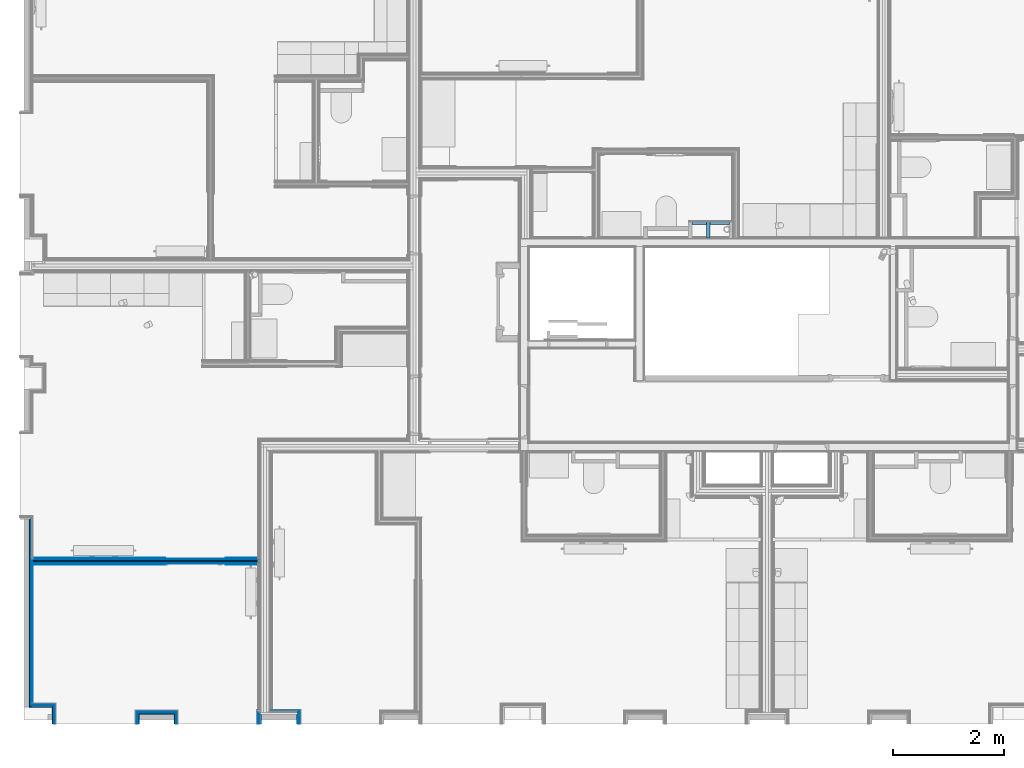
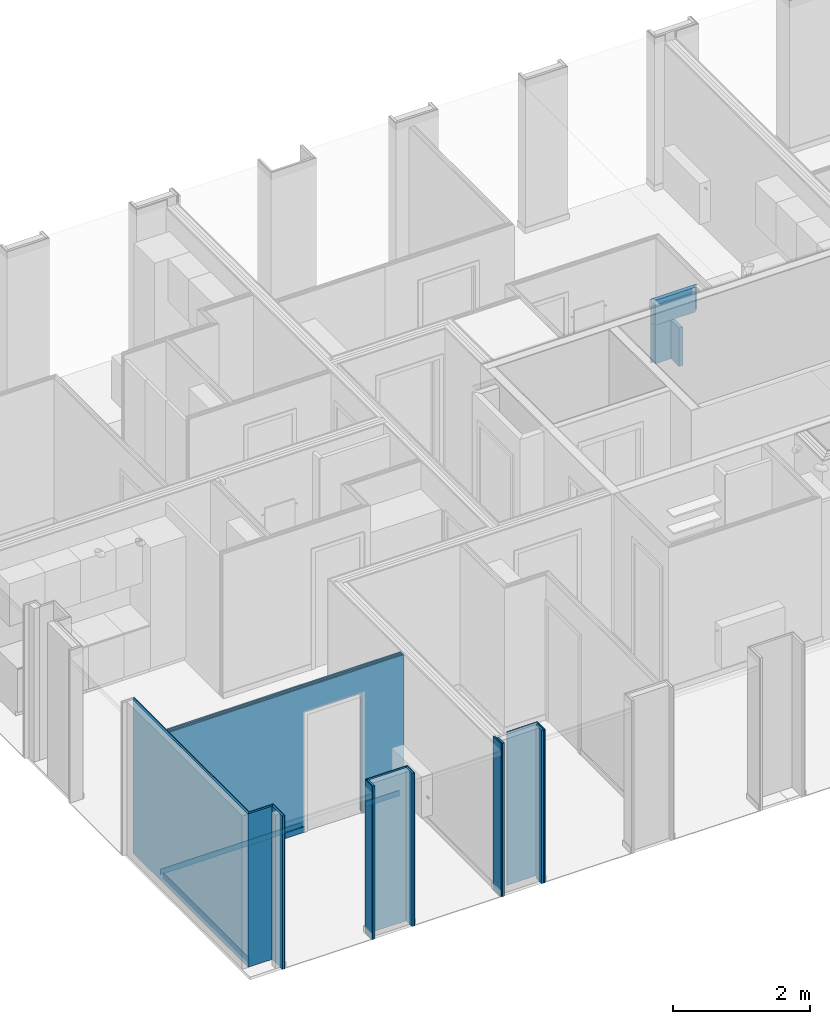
# One storey, part 7 of 85: 27 building element parts, 3 walls, 1 opening, 10 elements without a shape of their own.
"""IFC2X3 building model written with IfcOpenShell, lengths in metres."""

from ifc_helpers import new_model, entity, si_unit, converted_unit, derived_unit, money_unit, direction, frame, frame_2d, origin_with_axes, place, context, subcontext, project, spatial, polyline, rectangle, outline, extrude, material, layer, layer_set, layer_usage, type_object, element, aggregate, save


model = new_model("IFC2X3")

# Units and contexts
model_context = context("Model", 3, precision=1e-05, world=origin_with_axes(), true_north=direction((0.0, 1.0)))
body_context = subcontext(model_context, "Body", "Model", "MODEL_VIEW", scale=1.0)
ifc_project = project(units=[si_unit("LENGTHUNIT", "METRE"), si_unit("AREAUNIT", "SQUARE_METRE"), si_unit("VOLUMEUNIT", "CUBIC_METRE"), si_unit("ABSORBEDDOSEUNIT", "GRAY"), si_unit("AMOUNTOFSUBSTANCEUNIT", "MOLE"), si_unit("DOSEEQUIVALENTUNIT", "SIEVERT"), si_unit("ELECTRICCAPACITANCEUNIT", "FARAD"), si_unit("ELECTRICCHARGEUNIT", "COULOMB"), si_unit("ELECTRICCONDUCTANCEUNIT", "SIEMENS"), si_unit("ELECTRICCURRENTUNIT", "AMPERE"), si_unit("ELECTRICRESISTANCEUNIT", "OHM"), si_unit("ELECTRICVOLTAGEUNIT", "VOLT"), si_unit("ENERGYUNIT", "JOULE"), si_unit("FORCEUNIT", "NEWTON"), si_unit("FREQUENCYUNIT", "HERTZ"), si_unit("ILLUMINANCEUNIT", "LUX"), si_unit("INDUCTANCEUNIT", "HENRY"), si_unit("LUMINOUSFLUXUNIT", "LUMEN"), si_unit("LUMINOUSINTENSITYUNIT", "CANDELA"), si_unit("MAGNETICFLUXDENSITYUNIT", "TESLA"), si_unit("MAGNETICFLUXUNIT", "WEBER"), si_unit("MASSUNIT", "GRAM"), converted_unit("PLANEANGLEUNIT", "degree", entity("IfcReal", 0.0174532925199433), si_unit("PLANEANGLEUNIT", "RADIAN"), dimensions=[0, 0, 0, 0, 0, 0, 0]), si_unit("POWERUNIT", "WATT"), si_unit("PRESSUREUNIT", "PASCAL"), si_unit("RADIOACTIVITYUNIT", "BECQUEREL"), si_unit("SOLIDANGLEUNIT", "STERADIAN"), si_unit("THERMODYNAMICTEMPERATUREUNIT", "KELVIN"), si_unit("TIMEUNIT", "SECOND"), derived_unit("ACCELERATIONUNIT", [(si_unit("LENGTHUNIT", "METRE"), 1), (si_unit("TIMEUNIT", "SECOND"), -2)]), derived_unit("ANGULARVELOCITYUNIT", [(converted_unit("PLANEANGLEUNIT", "degree", entity("IfcReal", 0.0174532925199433), si_unit("PLANEANGLEUNIT", "RADIAN"), dimensions=[0, 0, 0, 0, 0, 0, 0]), 1), (si_unit("TIMEUNIT", "SECOND"), -1)]), derived_unit("CURVATUREUNIT", [(converted_unit("PLANEANGLEUNIT", "degree", entity("IfcReal", 0.0174532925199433), si_unit("PLANEANGLEUNIT", "RADIAN"), dimensions=[0, 0, 0, 0, 0, 0, 0]), 1), (si_unit("LENGTHUNIT", "METRE"), -1)]), derived_unit("DYNAMICVISCOSITYUNIT", [(si_unit("PRESSUREUNIT", "PASCAL"), 1), (si_unit("TIMEUNIT", "SECOND"), 1)]), derived_unit("HEATFLUXDENSITYUNIT", [(si_unit("POWERUNIT", "WATT"), 1), (si_unit("LENGTHUNIT", "METRE"), -2)]), derived_unit("HEATINGVALUEUNIT", [(si_unit("ENERGYUNIT", "JOULE"), 1), (si_unit("MASSUNIT", "GRAM"), -1)]), derived_unit("INTEGERCOUNTRATEUNIT", [(si_unit("TIMEUNIT", "SECOND"), -1)]), derived_unit("IONCONCENTRATIONUNIT", [(si_unit("MASSUNIT", "GRAM"), 1), (si_unit("VOLUMEUNIT", "CUBIC_METRE"), -1)]), derived_unit("ISOTHERMALMOISTURECAPACITYUNIT", [(si_unit("VOLUMEUNIT", "CUBIC_METRE"), 1), (si_unit("MASSUNIT", "GRAM"), -1)]), derived_unit("KINEMATICVISCOSITYUNIT", [(si_unit("AREAUNIT", "SQUARE_METRE"), 1), (si_unit("TIMEUNIT", "SECOND"), -1)]), derived_unit("LINEARFORCEUNIT", [(si_unit("FORCEUNIT", "NEWTON"), 1), (si_unit("LENGTHUNIT", "METRE"), -1)]), derived_unit("LINEARMOMENTUNIT", [(si_unit("FORCEUNIT", "NEWTON"), 1), (si_unit("LENGTHUNIT", "METRE"), -1)]), derived_unit("LINEARSTIFFNESSUNIT", [(si_unit("FORCEUNIT", "NEWTON"), 1), (si_unit("LENGTHUNIT", "METRE"), -1)]), derived_unit("LINEARVELOCITYUNIT", [(si_unit("LENGTHUNIT", "METRE"), 1), (si_unit("TIMEUNIT", "SECOND"), -1)]), derived_unit("LUMINOUSINTENSITYDISTRIBUTIONUNIT", [(si_unit("LUMINOUSINTENSITYUNIT", "CANDELA"), 1), (si_unit("LUMINOUSFLUXUNIT", "LUMEN"), -1)]), derived_unit("MASSDENSITYUNIT", [(si_unit("MASSUNIT", "GRAM"), 1), (si_unit("VOLUMEUNIT", "CUBIC_METRE"), -1)]), derived_unit("MASSFLOWRATEUNIT", [(si_unit("MASSUNIT", "GRAM"), 1), (si_unit("TIMEUNIT", "SECOND"), -1)]), derived_unit("MASSPERLENGTHUNIT", [(si_unit("MASSUNIT", "GRAM"), 1), (si_unit("LENGTHUNIT", "METRE"), -1)]), derived_unit("MODULUSOFELASTICITYUNIT", [(si_unit("FORCEUNIT", "NEWTON"), 1), (si_unit("AREAUNIT", "SQUARE_METRE"), -1)]), derived_unit("MODULUSOFLINEARSUBGRADEREACTIONUNIT", [(si_unit("FORCEUNIT", "NEWTON"), 1), (si_unit("LENGTHUNIT", "METRE"), -2)]), derived_unit("MODULUSOFROTATIONALSUBGRADEREACTIONUNIT", [(si_unit("FORCEUNIT", "NEWTON"), 1), (si_unit("LENGTHUNIT", "METRE"), 1)]), derived_unit("MODULUSOFSUBGRADEREACTIONUNIT", [(si_unit("FORCEUNIT", "NEWTON"), 1), (si_unit("VOLUMEUNIT", "CUBIC_METRE"), -1)]), derived_unit("MOISTUREDIFFUSIVITYUNIT", [(si_unit("VOLUMEUNIT", "CUBIC_METRE"), 1), (si_unit("TIMEUNIT", "SECOND"), -1)]), derived_unit("MOLECULARWEIGHTUNIT", [(si_unit("MASSUNIT", "GRAM"), 1), (si_unit("AMOUNTOFSUBSTANCEUNIT", "MOLE"), -1)]), derived_unit("PLANARFORCEUNIT", [(si_unit("FORCEUNIT", "NEWTON"), 1), (si_unit("LENGTHUNIT", "METRE"), -2)]), derived_unit("ROTATIONALFREQUENCYUNIT", [(si_unit("TIMEUNIT", "SECOND"), -1)]), derived_unit("ROTATIONALMASSUNIT", [(si_unit("MASSUNIT", "GRAM"), 1), (si_unit("LENGTHUNIT", "METRE"), 2)]), derived_unit("ROTATIONALSTIFFNESSUNIT", [(si_unit("FORCEUNIT", "NEWTON"), 1), (si_unit("LENGTHUNIT", "METRE"), 1), (converted_unit("PLANEANGLEUNIT", "degree", entity("IfcReal", 0.0174532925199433), si_unit("PLANEANGLEUNIT", "RADIAN"), dimensions=[0, 0, 0, 0, 0, 0, 0]), -1)]), derived_unit("SECTIONAREAINTEGRALUNIT", [(si_unit("LENGTHUNIT", "METRE"), 5)]), derived_unit("SECTIONMODULUSUNIT", [(si_unit("LENGTHUNIT", "METRE"), 3)]), derived_unit("SHEARMODULUSUNIT", [(si_unit("FORCEUNIT", "NEWTON"), 1), (si_unit("AREAUNIT", "SQUARE_METRE"), -1)]), derived_unit("SOUNDPOWERUNIT", [(si_unit("ENERGYUNIT", "JOULE"), 1), (si_unit("TIMEUNIT", "SECOND"), -1)]), derived_unit("SPECIFICHEATCAPACITYUNIT", [(si_unit("FORCEUNIT", "NEWTON"), 1), (si_unit("MASSUNIT", "GRAM"), -1), (si_unit("THERMODYNAMICTEMPERATUREUNIT", "KELVIN"), -1)]), derived_unit("TEMPERATUREGRADIENTUNIT", [(si_unit("THERMODYNAMICTEMPERATUREUNIT", "KELVIN"), 1), (si_unit("LENGTHUNIT", "METRE"), -1)]), derived_unit("THERMALADMITTANCEUNIT", [(si_unit("POWERUNIT", "WATT"), 1), (si_unit("AREAUNIT", "SQUARE_METRE"), -1), (si_unit("THERMODYNAMICTEMPERATUREUNIT", "KELVIN"), -1)]), derived_unit("THERMALCONDUCTANCEUNIT", [(si_unit("POWERUNIT", "WATT"), 1), (si_unit("LENGTHUNIT", "METRE"), -1), (si_unit("THERMODYNAMICTEMPERATUREUNIT", "KELVIN"), -1)]), derived_unit("THERMALEXPANSIONCOEFFICIENTUNIT", [(si_unit("THERMODYNAMICTEMPERATUREUNIT", "KELVIN"), -1)]), derived_unit("THERMALRESISTANCEUNIT", [(si_unit("AREAUNIT", "SQUARE_METRE"), 1), (si_unit("POWERUNIT", "WATT"), -1)]), derived_unit("THERMALTRANSMITTANCEUNIT", [(si_unit("POWERUNIT", "WATT"), 1), (si_unit("AREAUNIT", "SQUARE_METRE"), -1), (si_unit("THERMODYNAMICTEMPERATUREUNIT", "KELVIN"), -1)]), derived_unit("TORQUEUNIT", [(si_unit("FORCEUNIT", "NEWTON"), 1), (si_unit("LENGTHUNIT", "METRE"), 1)]), derived_unit("VAPORPERMEABILITYUNIT", [(si_unit("MASSUNIT", "GRAM"), 1), (si_unit("TIMEUNIT", "SECOND"), -1)]), derived_unit("VOLUMETRICFLOWRATEUNIT", [(si_unit("VOLUMEUNIT", "CUBIC_METRE"), 1), (si_unit("TIMEUNIT", "SECOND"), -1)]), derived_unit("WARPINGCONSTANTUNIT", [(si_unit("LENGTHUNIT", "METRE"), 6)]), derived_unit("WARPINGMOMENTUNIT", [(si_unit("FORCEUNIT", "NEWTON"), 1), (si_unit("LENGTHUNIT", "METRE"), 2)]), money_unit("GBP")], contexts=[model_context])

# Site, building, storey
site_placement = place(None, origin_with_axes())
site = spatial("IfcSite", under=ifc_project, at=site_placement, Name="Site", CompositionType="ELEMENT")
building_placement = place(site_placement, origin_with_axes())
building = spatial("IfcBuilding", under=site, at=building_placement, Name="Building01", CompositionType="ELEMENT")
storey_placement = place(building_placement, frame((0.0, 0.0, 12.13), z_axis=(0.0, 0.0, 1.0), x_axis=(1.0, 0.0, 0.0)))
storey = spatial("IfcBuildingStorey", under=building, at=storey_placement, Name="3F", CompositionType="ELEMENT", Elevation=12.13)

# Walls
ifc_material_1 = material(Name="A_BSUK_OpeningsClearance")
ifc_layer_1 = layer(ifc_material_1, 0.05, ventilated=False)
ifc_material_2 = material(Name="A_BSUK_Walls_Timber")
ifc_layer_2 = layer(ifc_material_2, 0.015, ventilated=False)
ifc_layer_set = layer_set([ifc_layer_1, ifc_layer_2])
ifc_layer_usage = layer_usage(ifc_layer_set, "AXIS2", "POSITIVE", 0.0)
wall_type_1 = type_object("IfcWallType", Name="SHE_A-Walls_Type05c_PreWallShell_65mm", PredefinedType="NOTDEFINED")
wall_1_placement = place(storey_placement, frame((12.153871, 9.055, 2.065), z_axis=(0.0, 0.0, 1.0), x_axis=(1.0, 0.0, 0.0)))
element("IfcWallStandardCase", 1, at=wall_1_placement, inside=storey, type_object=wall_type_1, material=ifc_layer_usage, Name="5C", ObjectType="SHE_A-Walls_Type05c_PreWallShell_65mm", context=body_context, shape_type="SweptSolid", body=[
    extrude(outline(polyline([(0.674714, 0.05), (0.724714, 0.05), (0.724714, 0.065), (-0.05, 0.065), (-0.05, 0.05), (0.0, 0.05), (0.0, 0.0), (0.674714, 0.0), (0.674714, 0.05)])), origin_with_axes(), (0.0, 0.0, 1.0), 0.445),
])
wall_2_placement = place(storey_placement, frame((12.153871, 9.055, 1.375), z_axis=(0.0, 0.0, 1.0), x_axis=(1.0, 0.0, 0.0)))
element("IfcWallStandardCase", 2, at=wall_2_placement, inside=storey, type_object=wall_type_1, material=ifc_layer_usage, Name="5C", ObjectType="SHE_A-Walls_Type05c_PreWallShell_65mm", context=body_context, shape_type="SweptSolid", body=[
    extrude(outline(polyline([(0.259714, 0.05), (0.309714, 0.05), (0.309714, 0.065), (-0.05, 0.065), (-0.05, 0.05), (0.0, 0.05), (0.0, 0.0), (0.259714, 0.0), (0.259714, 0.05)])), origin_with_axes(), (0.0, 0.0, 1.0), 0.69),
])
wall_3_placement = place(storey_placement, frame((12.413585, 9.105, 1.375), z_axis=(0.0, 0.0, 1.0), x_axis=(0.0, -1.0, 0.0)))
element("IfcWallStandardCase", 3, at=wall_3_placement, inside=storey, type_object=wall_type_1, material=ifc_layer_usage, Name="5C", ObjectType="SHE_A-Walls_Type05c_PreWallShell_65mm", context=body_context, shape_type="SweptSolid", body=[
    extrude(outline(polyline([(0.285, 0.065), (-0.015, 0.065), (-0.015, 0.05), (0.0, 0.05), (0.0, 0.0), (0.285, 0.0), (0.285, 0.065)])), origin_with_axes(), (0.0, 0.0, 1.0), 0.69),
])

# Wall, building element parts
wall_type_2 = type_object("IfcWallType", Name="SHE_A-Walls_Type06d_ExternalWallInsulation_48mm", PredefinedType="NOTDEFINED")
wall_4_placement = place(storey_placement, frame((0.27, 0.4, 0.0), z_axis=(0.0, 0.0, 1.0), x_axis=(1.0, 0.0, 0.0)))
wall_4 = element("IfcWall", 4, at=wall_4_placement, inside=storey, type_object=wall_type_2, Name="6D", ObjectType="SHE_A-Walls_Type06d_ExternalWallInsulation_48mm")
ifc_material_3 = material(Name="A_BSUK_Insulation")
placement_1 = place(wall_4_placement, origin_with_axes())
building_element_part_1 = element("IfcBuildingElementPart", 5, at=placement_1, material=ifc_material_3, Name="1", context=body_context, shape_type="SweptSolid", body=[
    extrude(outline(polyline([(0.443, 0.036), (0.036, 0.036), (0.0, 0.0), (0.407, 0.0), (0.443, 0.036)])), origin_with_axes(), (0.0, 0.0, 1.0), 2.74),
])
ifc_material_4 = material(Name="A_BSUK_WallInternal_Finishes_Plasterboard")
building_element_part_2 = element("IfcBuildingElementPart", 6, at=placement_1, material=ifc_material_4, Name="2", context=body_context, shape_type="SweptSolid", body=[
    extrude(outline(polyline([(0.455, 0.048), (0.048, 0.048), (0.035, 0.035), (0.442, 0.035), (0.455, 0.048)])), origin_with_axes(), (0.0, 0.0, 1.0), 2.74),
])
aggregate(wall_4, [building_element_part_1, building_element_part_2])

wall_5_placement = place(storey_placement, frame((0.677, 0.4, 0.0), z_axis=(0.0, 0.0, 1.0), x_axis=(0.0, -1.0, 0.0)))
wall_5 = element("IfcWall", 7, at=wall_5_placement, inside=storey, type_object=wall_type_2, Name="6D", ObjectType="SHE_A-Walls_Type06d_ExternalWallInsulation_48mm")
placement_2 = place(wall_5_placement, origin_with_axes())
building_element_part_3 = element("IfcBuildingElementPart", 8, at=placement_2, material=ifc_material_3, Name="1", context=body_context, shape_type="SweptSolid", body=[
    extrude(outline(polyline([(-0.036, 0.036), (0.0, 0.0), (0.3, 0.0), (0.3, 0.036), (-0.036, 0.036)])), origin_with_axes(), (0.0, 0.0, 1.0), 2.74),
])
building_element_part_4 = element("IfcBuildingElementPart", 9, at=placement_2, material=ifc_material_4, Name="2", context=body_context, shape_type="SweptSolid", body=[
    extrude(outline(polyline([(-0.048, 0.048), (-0.035, 0.035), (0.3, 0.035), (0.3, 0.048), (-0.048, 0.048)])), origin_with_axes(), (0.0, 0.0, 1.0), 2.74),
])
aggregate(wall_5, [building_element_part_3, building_element_part_4])

wall_6_placement = place(storey_placement, frame((2.243, 0.1, 0.0), z_axis=(0.0, 0.0, 1.0), x_axis=(0.0, 1.0, 0.0)))
wall_6 = element("IfcWall", 10, at=wall_6_placement, inside=storey, type_object=wall_type_2, Name="6D", ObjectType="SHE_A-Walls_Type06d_ExternalWallInsulation_48mm")
placement_3 = place(wall_6_placement, origin_with_axes())
building_element_part_5 = element("IfcBuildingElementPart", 11, at=placement_3, material=ifc_material_3, Name="1", context=body_context, shape_type="SweptSolid", body=[
    extrude(outline(polyline([(0.206, 0.036), (0.0, 0.036), (0.0, 0.0), (0.17, 0.0), (0.206, 0.036)])), origin_with_axes(), (0.0, 0.0, 1.0), 2.74),
])
building_element_part_6 = element("IfcBuildingElementPart", 12, at=placement_3, material=ifc_material_4, Name="2", context=body_context, shape_type="SweptSolid", body=[
    extrude(outline(polyline([(0.218, 0.048), (0.0, 0.048), (0.0, 0.035), (0.205, 0.035), (0.218, 0.048)])), origin_with_axes(), (0.0, 0.0, 1.0), 2.74),
])
aggregate(wall_6, [building_element_part_5, building_element_part_6])

wall_7_placement = place(storey_placement, frame((2.243, 0.27, 0.0), z_axis=(0.0, 0.0, 1.0), x_axis=(1.0, 0.0, 0.0)))
wall_7 = element("IfcWall", 13, at=wall_7_placement, inside=storey, type_object=wall_type_2, Name="6D", ObjectType="SHE_A-Walls_Type06d_ExternalWallInsulation_48mm")
placement_4 = place(wall_7_placement, origin_with_axes())
building_element_part_7 = element("IfcBuildingElementPart", 14, at=placement_4, material=ifc_material_3, Name="1", context=body_context, shape_type="SweptSolid", body=[
    extrude(outline(polyline([(0.66, 0.036), (-0.036, 0.036), (0.0, 0.0), (0.624, 0.0), (0.66, 0.036)])), origin_with_axes(), (0.0, 0.0, 1.0), 2.74),
])
building_element_part_8 = element("IfcBuildingElementPart", 15, at=placement_4, material=ifc_material_4, Name="2", context=body_context, shape_type="SweptSolid", body=[
    extrude(outline(polyline([(0.672, 0.048), (-0.048, 0.048), (-0.035, 0.035), (0.659, 0.035), (0.672, 0.048)])), origin_with_axes(), (0.0, 0.0, 1.0), 2.74),
])
aggregate(wall_7, [building_element_part_7, building_element_part_8])

wall_8_placement = place(storey_placement, frame((2.867, 0.27, 0.0), z_axis=(0.0, 0.0, 1.0), x_axis=(0.0, -1.0, 0.0)))
wall_8 = element("IfcWall", 16, at=wall_8_placement, inside=storey, type_object=wall_type_2, Name="6D", ObjectType="SHE_A-Walls_Type06d_ExternalWallInsulation_48mm")
placement_5 = place(wall_8_placement, origin_with_axes())
building_element_part_9 = element("IfcBuildingElementPart", 17, at=placement_5, material=ifc_material_3, Name="1", context=body_context, shape_type="SweptSolid", body=[
    extrude(outline(polyline([(-0.036, 0.036), (0.0, 0.0), (0.17, 0.0), (0.17, 0.036), (-0.036, 0.036)])), origin_with_axes(), (0.0, 0.0, 1.0), 2.74),
])
building_element_part_10 = element("IfcBuildingElementPart", 18, at=placement_5, material=ifc_material_4, Name="2", context=body_context, shape_type="SweptSolid", body=[
    extrude(outline(polyline([(-0.048, 0.048), (-0.035, 0.035), (0.17, 0.035), (0.17, 0.048), (-0.048, 0.048)])), origin_with_axes(), (0.0, 0.0, 1.0), 2.74),
])
aggregate(wall_8, [building_element_part_9, building_element_part_10])

wall_9_placement = place(storey_placement, frame((0.27, 3.77418, 0.0), z_axis=(0.0, 0.0, 1.0), x_axis=(0.0, -1.0, 0.0)))
wall_9 = element("IfcWall", 19, at=wall_9_placement, inside=storey, type_object=wall_type_2, Name="6D", ObjectType="SHE_A-Walls_Type06d_ExternalWallInsulation_48mm")
placement_6 = place(wall_9_placement, origin_with_axes())
building_element_part_11 = element("IfcBuildingElementPart", 20, at=placement_6, material=ifc_material_3, Name="1", context=body_context, shape_type="SweptSolid", body=[
    extrude(outline(polyline([(3.33818, 0.036), (-0.036, 0.036), (0.0, 0.0), (3.37418, 0.0), (3.33818, 0.036)])), origin_with_axes(), (0.0, 0.0, 1.0), 2.74),
])
building_element_part_12 = element("IfcBuildingElementPart", 21, at=placement_6, material=ifc_material_4, Name="2", context=body_context, shape_type="SweptSolid", body=[
    extrude(outline(polyline([(3.32618, 0.048), (-0.048, 0.048), (-0.035, 0.035), (3.33918, 0.035), (3.32618, 0.048)])), origin_with_axes(), (0.0, 0.0, 1.0), 2.74),
])
building_element_part_13 = element("IfcBuildingElementPart", 22, at=placement_6, material=ifc_material_2, Name="4", context=body_context, shape_type="SweptSolid", body=[
    extrude(outline(polyline([(3.31118, 0.063), (0.803894, 0.063), (0.803894, 0.048), (3.32618, 0.048), (3.31118, 0.063)])), frame((0.0, 0.0, 0.015), z_axis=(0.0, 0.0, 1.0), x_axis=(1.0, 0.0, 0.0)), (0.0, 0.0, 1.0), 0.1),
])
aggregate(wall_9, [building_element_part_11, building_element_part_12, building_element_part_13])

# Wall, opening, building element parts
wall_type_3 = type_object("IfcWallType", Name="SHE_A-Walls_Type05a_Partition_95mm_tall", PredefinedType="NOTDEFINED")
wall_10_placement = place(storey_placement, frame((0.318, 3.030286, 0.0), z_axis=(0.0, 0.0, 1.0), x_axis=(1.0, 0.0, 0.0)))
wall_10 = element("IfcWall", 23, at=wall_10_placement, inside=storey, type_object=wall_type_3, Name="5A", ObjectType="SHE_A-Walls_Type05a_Partition_95mm_tall")
opening_placement = place(wall_10_placement, frame((2.391, -0.075, -0.03), z_axis=(0.0, 0.0, 1.0), x_axis=(1.0, 0.0, 0.0)))
element("IfcOpeningElement", 24, at=opening_placement, cuts=wall_10, Name="Opening", ObjectType="Opening", context=body_context, shape_type="SweptSolid", body=[
    extrude(outline(polyline([(-0.984, 0.0), (-0.099, 0.0), (-0.099, 0.03), (0.0, 0.03), (0.0, 2.172), (-0.984, 2.172), (-0.984, 0.0)])), frame((0.0, 0.0, 0.0), z_axis=(0.0, 1.0, 0.0), x_axis=(-1.0, 0.0, 0.0)), (0.0, 0.0, 1.0), 0.125),
    extrude(rectangle(XDim=0.984, YDim=2.172, at=frame_2d((-0.492, 1.086), x_axis=(1.0, 0.0))), frame((0.0, 0.015, 0.0), z_axis=(0.0, 1.0, 0.0), x_axis=(-1.0, 0.0, 0.0)), (0.0, 0.0, 1.0), 0.012),
    extrude(outline(polyline([(-0.099, 0.03), (0.0, 0.03), (0.0, 2.172), (-0.984, 2.172), (-0.984, 2.142), (-1.083, 2.142), (-1.083, 0.0), (-0.099, 0.0), (-0.099, 0.03)])), frame((0.0, 0.0, 0.0), z_axis=(0.0, 1.0, 0.0), x_axis=(-1.0, 0.0, 0.0)), (0.0, 0.0, 1.0), 0.015),
    extrude(rectangle(XDim=0.984, YDim=2.172, at=frame_2d((-0.492, 1.086), x_axis=(1.0, 0.0))), frame((0.0, 0.027, 0.0), z_axis=(0.0, 1.0, 0.0), x_axis=(-1.0, 0.0, 0.0)), (0.0, 0.0, 1.0), 0.023),
    extrude(outline(polyline([(-0.984, 0.0), (-0.042, 0.0), (-0.042, 0.03), (0.0, 0.03), (0.0, 2.172), (-0.984, 2.172), (-0.984, 0.0)])), frame((0.0, 0.05, 0.0), z_axis=(0.0, 1.0, 0.0), x_axis=(-1.0, 0.0, 0.0)), (0.0, 0.0, 1.0), 0.025),
    extrude(outline(polyline([(-0.984, 0.0), (-0.042, 0.0), (-0.042, 0.03), (0.0, 0.03), (0.0, 2.172), (-0.984, 2.172), (-0.984, 0.0)])), frame((0.0, 0.075, 0.0), z_axis=(0.0, 1.0, 0.0), x_axis=(-1.0, 0.0, 0.0)), (0.0, 0.0, 1.0), 0.023),
    extrude(outline(polyline([(-0.984, 0.0), (-0.042, 0.0), (-0.042, 0.03), (0.0, 0.03), (0.0, 2.172), (-0.984, 2.172), (-0.984, 0.0)])), frame((0.0, 0.098, 0.0), z_axis=(0.0, 1.0, 0.0), x_axis=(-1.0, 0.0, 0.0)), (0.0, 0.0, 1.0), 0.012),
    extrude(outline(polyline([(-0.099, 0.03), (0.0, 0.03), (0.0, 2.172), (-0.984, 2.172), (-0.984, 2.142), (-1.083, 2.142), (-1.083, 0.0), (-0.099, 0.0), (-0.099, 0.03)])), frame((0.0, 0.11, 0.0), z_axis=(0.0, 1.0, 0.0), x_axis=(-1.0, 0.0, 0.0)), (0.0, 0.0, 1.0), 0.015),
])
placement_7 = place(wall_10_placement, origin_with_axes())
building_element_part_14 = element("IfcBuildingElementPart", 25, at=placement_7, material=ifc_material_2, Name="1", context=body_context, shape_type="SweptSolid", body=[
    extrude(rectangle(XDim=4.037, YDim=0.015, at=frame_2d((2.0335, -0.0675), x_axis=(-1.0, 0.0))), frame((0.0, 0.0, 0.015), z_axis=(0.0, 0.0, 1.0), x_axis=(1.0, 0.0, 0.0)), (0.0, 0.0, 1.0), 0.1),
])
building_element_part_15 = element("IfcBuildingElementPart", 26, at=placement_7, material=ifc_material_4, Name="2", context=body_context, shape_type="SweptSolid", body=[
    extrude(rectangle(XDim=4.067, YDim=0.012, at=frame_2d((2.0335, -0.054), x_axis=(-1.0, 0.0))), origin_with_axes(), (0.0, 0.0, 1.0), 2.59),
])
ifc_material_5 = material(Name="Air Cavity")
building_element_part_16 = element("IfcBuildingElementPart", 27, at=placement_7, material=ifc_material_5, Name="3", context=body_context, shape_type="SweptSolid", body=[
    extrude(rectangle(XDim=4.067, YDim=0.023, at=frame_2d((2.0335, -0.0365), x_axis=(-1.0, 0.0))), origin_with_axes(), (0.0, 0.0, 1.0), 2.59),
])
building_element_part_17 = element("IfcBuildingElementPart", 28, at=placement_7, material=ifc_material_3, Name="4", context=body_context, shape_type="SweptSolid", body=[
    extrude(rectangle(XDim=4.067, YDim=0.025, at=frame_2d((2.0335, -0.0125), x_axis=(-1.0, 0.0))), origin_with_axes(), (0.0, 0.0, 1.0), 2.59),
])
building_element_part_18 = element("IfcBuildingElementPart", 29, at=placement_7, material=ifc_material_5, Name="5", context=body_context, shape_type="SweptSolid", body=[
    extrude(rectangle(XDim=4.067, YDim=0.023, at=frame_2d((2.0335, 0.0115), x_axis=(-1.0, 0.0))), origin_with_axes(), (0.0, 0.0, 1.0), 2.59),
])
building_element_part_19 = element("IfcBuildingElementPart", 30, at=placement_7, material=ifc_material_4, Name="6", context=body_context, shape_type="SweptSolid", body=[
    extrude(rectangle(XDim=4.067, YDim=0.012, at=frame_2d((2.0335, 0.029), x_axis=(-1.0, 0.0))), origin_with_axes(), (0.0, 0.0, 1.0), 2.59),
])
building_element_part_20 = element("IfcBuildingElementPart", 31, at=placement_7, material=ifc_material_2, Name="7", context=body_context, shape_type="SweptSolid", body=[
    extrude(rectangle(XDim=4.037, YDim=0.015, at=frame_2d((2.0335, 0.0425), x_axis=(-1.0, 0.0))), frame((0.0, 0.0, 0.015), z_axis=(0.0, 0.0, 1.0), x_axis=(1.0, 0.0, 0.0)), (0.0, 0.0, 1.0), 0.1),
])
aggregate(wall_10, [building_element_part_14, building_element_part_15, building_element_part_16, building_element_part_17, building_element_part_18, building_element_part_19, building_element_part_20])

# Wall, building element parts
wall_type_4 = type_object("IfcWallType", Name="SHE_A-Walls_Type06f_ExternalWallInsulation_48+15mm", PredefinedType="NOTDEFINED")
wall_11_placement = place(storey_placement, frame((4.433, 0.1, 0.0), z_axis=(0.0, 0.0, 1.0), x_axis=(0.0, -1.0, 0.0)))
wall_11 = element("IfcWall", 32, at=wall_11_placement, inside=storey, type_object=wall_type_4, Name="6F", ObjectType="SHE_A-Walls_Type06f_ExternalWallInsulation_48+15mm")
placement_8 = place(wall_11_placement, origin_with_axes())
building_element_part_21 = element("IfcBuildingElementPart", 33, at=placement_8, material=ifc_material_4, Name="2", context=body_context, shape_type="SweptSolid", body=[
    extrude(outline(polyline([(-0.233, -0.063), (0.0, -0.063), (0.0, -0.048), (-0.218, -0.048), (-0.233, -0.063)])), origin_with_axes(), (0.0, 0.0, 1.0), 2.74),
])
building_element_part_22 = element("IfcBuildingElementPart", 34, at=placement_8, material=ifc_material_4, Name="3", context=body_context, shape_type="SweptSolid", body=[
    extrude(rectangle(XDim=0.206, YDim=0.012, at=frame_2d((-0.103, -0.042), x_axis=(1.0, 0.0))), origin_with_axes(), (0.0, 0.0, 1.0), 2.74),
])
building_element_part_23 = element("IfcBuildingElementPart", 35, at=placement_8, material=ifc_material_3, Name="4", context=body_context, shape_type="SweptSolid", body=[
    extrude(rectangle(XDim=0.17, YDim=0.036, at=frame_2d((-0.085, -0.018), x_axis=(1.0, 0.0))), origin_with_axes(), (0.0, 0.0, 1.0), 2.74),
])
aggregate(wall_11, [building_element_part_21, building_element_part_22, building_element_part_23])

wall_12_placement = place(storey_placement, frame((5.057124, 0.1, 0.0), z_axis=(0.0, 0.0, 1.0), x_axis=(0.0, -1.0, 0.0)))
wall_12 = element("IfcWall", 36, at=wall_12_placement, inside=storey, type_object=wall_type_4, Name="6F", ObjectType="SHE_A-Walls_Type06f_ExternalWallInsulation_48+15mm")
placement_9 = place(wall_12_placement, origin_with_axes())
building_element_part_24 = element("IfcBuildingElementPart", 37, at=placement_9, material=ifc_material_3, Name="1", context=body_context, shape_type="SweptSolid", body=[
    extrude(rectangle(XDim=0.17, YDim=0.036, at=frame_2d((-0.085, 0.018), x_axis=(1.0, 0.0))), origin_with_axes(), (0.0, 0.0, 1.0), 2.74),
])
building_element_part_25 = element("IfcBuildingElementPart", 38, at=placement_9, material=ifc_material_4, Name="2", context=body_context, shape_type="SweptSolid", body=[
    extrude(rectangle(XDim=0.206, YDim=0.012, at=frame_2d((-0.103, 0.042), x_axis=(1.0, 0.0))), origin_with_axes(), (0.0, 0.0, 1.0), 2.74),
])
building_element_part_26 = element("IfcBuildingElementPart", 39, at=placement_9, material=ifc_material_4, Name="3", context=body_context, shape_type="SweptSolid", body=[
    extrude(outline(polyline([(-0.218, 0.048), (0.0, 0.048), (0.0, 0.063), (-0.233, 0.063), (-0.218, 0.048)])), origin_with_axes(), (0.0, 0.0, 1.0), 2.74),
])
aggregate(wall_12, [building_element_part_24, building_element_part_25, building_element_part_26])

# Wall, building element part
wall_13_placement = place(storey_placement, frame((5.093124, 0.27, 0.0), z_axis=(0.0, 0.0, 1.0), x_axis=(-1.0, 0.0, 0.0)))
wall_13 = element("IfcWall", 40, at=wall_13_placement, inside=storey, type_object=wall_type_4, Name="6F", ObjectType="SHE_A-Walls_Type06f_ExternalWallInsulation_48+15mm")
building_element_part_27_placement = place(wall_13_placement, origin_with_axes())
building_element_part_27 = element("IfcBuildingElementPart", 41, at=building_element_part_27_placement, material=ifc_material_4, Name="3", context=body_context, shape_type="SweptSolid", body=[
    extrude(outline(polyline([(0.498124, -0.048), (-0.012, -0.048), (-0.027, -0.063), (0.498124, -0.063), (0.498124, -0.048)])), origin_with_axes(), (0.0, 0.0, 1.0), 2.74),
])
aggregate(wall_13, [building_element_part_27])

save(model, "model.ifc")
